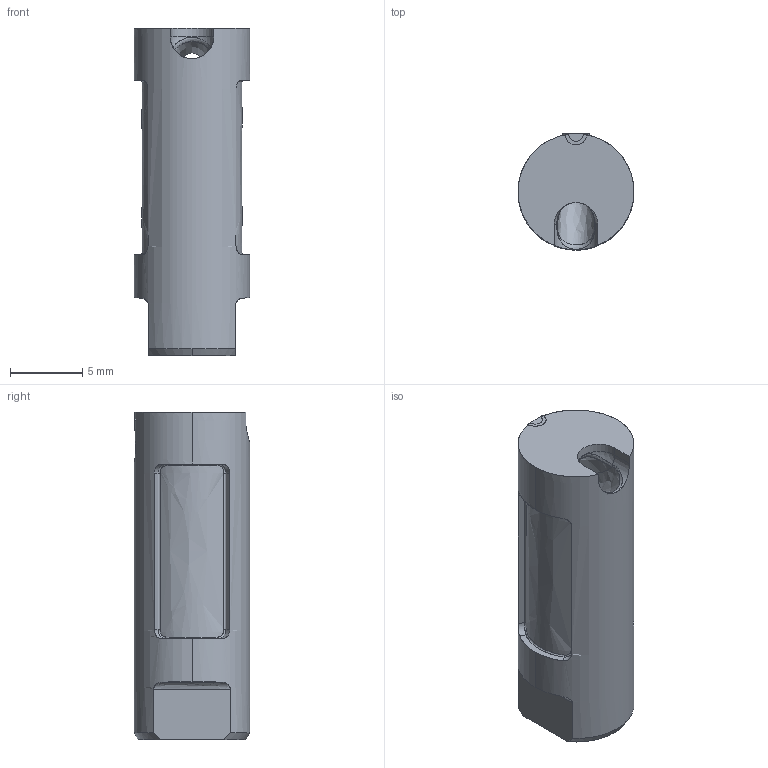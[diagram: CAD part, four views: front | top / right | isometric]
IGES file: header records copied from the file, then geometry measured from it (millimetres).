
Start section: START RECORD GO HERE.
Global section: file name: tgr8-06-s1.igs; native system: DASSAULT SYSTEMES CATIA V5 R20 - www.3ds.com; preprocessor: CATIA Version 5 Release 20 ; author: Utente; organization: NB04-ASUS; date: 20200417.224244; units: millimetre
Bounding box: 8 x 8 x 22.6 mm (x, y, z)
Surface area: 1055.1 mm2 (no closed solid volume)
Topology: 0 solids, 0 shells, 80 faces, 473 edges, 473 vertices
Faces by surface type: revolution 44, plane 18, bspline 18
